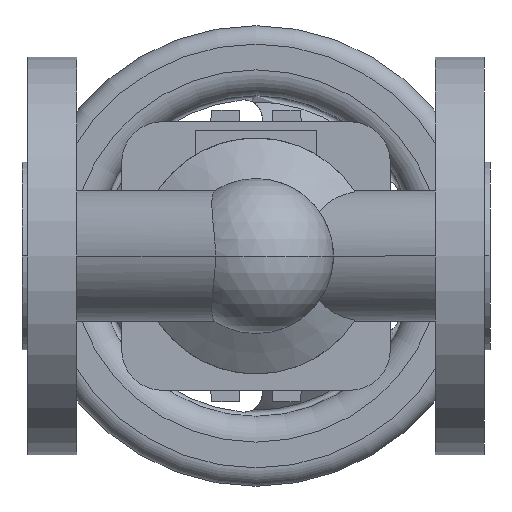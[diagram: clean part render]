
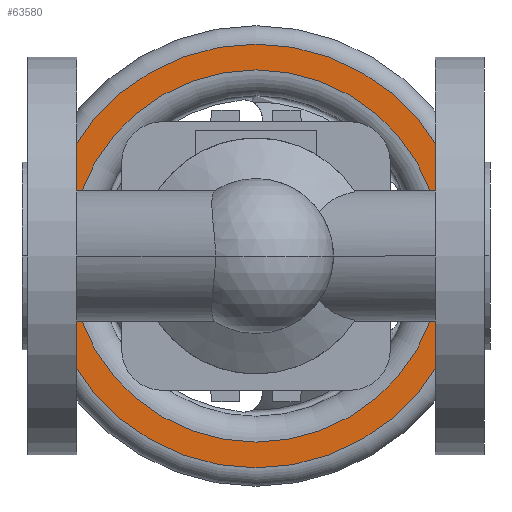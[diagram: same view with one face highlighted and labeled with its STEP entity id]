
A CAD part, front view. The second image highlights one B-rep face of the part: STEP entity #63580.
In plain terms, the highlighted planar face has unit normal (0, -1, 0).
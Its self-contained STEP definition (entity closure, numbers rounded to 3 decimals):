
#62940=CARTESIAN_POINT('',(6.,205.3,0.));
#62950=VERTEX_POINT('',#62940);
#62980=CARTESIAN_POINT('',(63.5,205.3,0.));
#62990=DIRECTION('',(0.,1.,0.));
#63000=DIRECTION('',(-1.,0.,0.));
#63010=AXIS2_PLACEMENT_3D('',#62980,#62990,#63000);
#63020=CIRCLE('',#63010,57.5);
#63030=CARTESIAN_POINT('',(121.,205.3,0.));
#63040=VERTEX_POINT('',#63030);
#63050=EDGE_CURVE('',#63040,#62950,#63020,.T.);
#63250=CARTESIAN_POINT('',(9.5,205.3,0.));
#63260=DIRECTION('',(0.,-1.,0.));
#63270=DIRECTION('',(1.,0.,0.));
#63280=AXIS2_PLACEMENT_3D('',#63250,#63260,#63270);
#63290=PLANE('',#63280);
#63300=CARTESIAN_POINT('',(63.5,205.3,57.5));
#63310=VERTEX_POINT('',#63300);
#63320=EDGE_CURVE('',#63310,#63040,#63020,.T.);
#63330=ORIENTED_EDGE('',*,*,#63320,.F.);
#63340=ORIENTED_EDGE('',*,*,#63050,.F.);
#63350=EDGE_CURVE('',#62950,#63310,#63020,.T.);
#63360=ORIENTED_EDGE('',*,*,#63350,.F.);
#63370=EDGE_LOOP('',(#63360,#63340,#63330));
#63380=FACE_OUTER_BOUND('',#63370,.T.);
#63390=CARTESIAN_POINT('',(63.5,205.3,0.));
#63400=DIRECTION('',(0.,1.,0.));
#63410=DIRECTION('',(-1.,0.,0.));
#63420=AXIS2_PLACEMENT_3D('',#63390,#63400,#63410);
#63430=CIRCLE('',#63420,50.5);
#63440=CARTESIAN_POINT('',(114.,205.3,0.));
#63450=VERTEX_POINT('',#63440);
#63460=CARTESIAN_POINT('',(13.,205.3,0.));
#63470=VERTEX_POINT('',#63460);
#63480=EDGE_CURVE('',#63450,#63470,#63430,.T.);
#63490=ORIENTED_EDGE('',*,*,#63480,.T.);
#63500=CARTESIAN_POINT('',(63.5,205.3,50.5));
#63510=VERTEX_POINT('',#63500);
#63520=EDGE_CURVE('',#63510,#63450,#63430,.T.);
#63530=ORIENTED_EDGE('',*,*,#63520,.T.);
#63540=EDGE_CURVE('',#63470,#63510,#63430,.T.);
#63550=ORIENTED_EDGE('',*,*,#63540,.T.);
#63560=EDGE_LOOP('',(#63550,#63530,#63490));
#63570=FACE_BOUND('',#63560,.T.);
#63580=ADVANCED_FACE('',(#63380,#63570),#63290,.T.);
